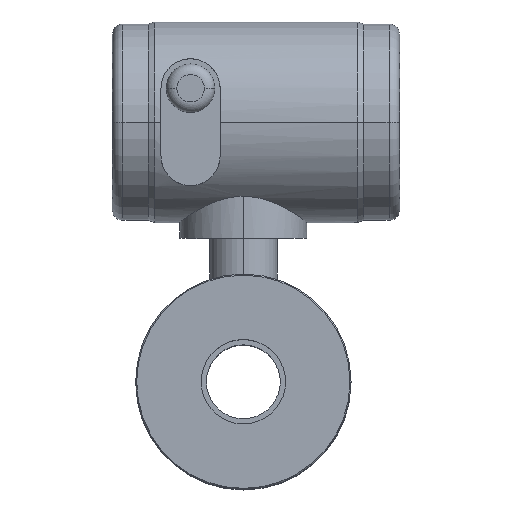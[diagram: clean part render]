
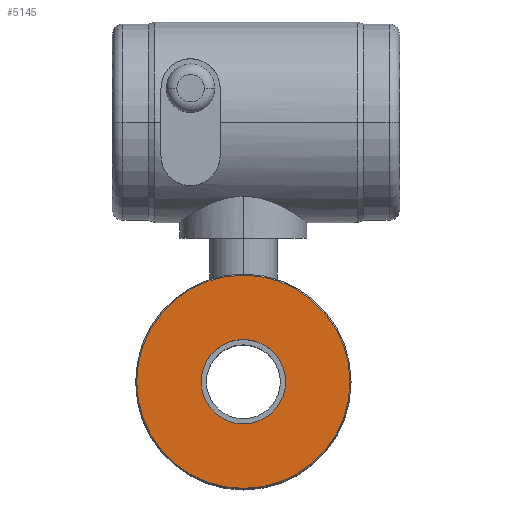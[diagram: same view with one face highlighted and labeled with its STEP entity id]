
A CAD part, top view. The second image highlights one B-rep face of the part: STEP entity #5145.
In plain terms, the highlighted planar face has unit normal (0, 0, 1).
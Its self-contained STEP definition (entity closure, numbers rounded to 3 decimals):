
#36 = PLANE ( 'NONE',  #2812 ) ;
#212 = EDGE_LOOP ( 'NONE', ( #3472, #1064 ) ) ;
#227 = CARTESIAN_POINT ( 'NONE',  ( 0., 50.5, -8.5 ) ) ;
#374 = EDGE_CURVE ( 'NONE', #4081, #2634, #403, .T. ) ;
#403 = CIRCLE ( 'NONE', #1513, 50.5 ) ;
#502 = DIRECTION ( 'NONE',  ( 0., 1., 0. ) ) ;
#754 = VERTEX_POINT ( 'NONE', #2592 ) ;
#879 = DIRECTION ( 'NONE',  ( 0., 0., -1. ) ) ;
#927 = CARTESIAN_POINT ( 'NONE',  ( 0., 0., -8.5 ) ) ;
#963 = DIRECTION ( 'NONE',  ( 0., 0., 1. ) ) ;
#1064 = ORIENTED_EDGE ( 'NONE', *, *, #3531, .T. ) ;
#1165 = DIRECTION ( 'NONE',  ( 0., -1., 0. ) ) ;
#1198 = CARTESIAN_POINT ( 'NONE',  ( 0., 0., -8.5 ) ) ;
#1332 = DIRECTION ( 'NONE',  ( 0., -1., 0. ) ) ;
#1481 = CARTESIAN_POINT ( 'NONE',  ( 0., -50.5, -8.5 ) ) ;
#1513 = AXIS2_PLACEMENT_3D ( 'NONE', #4663, #4658, #4651 ) ;
#1726 = EDGE_CURVE ( 'NONE', #2634, #4081, #4472, .T. ) ;
#1741 = FACE_OUTER_BOUND ( 'NONE', #2266, .T. ) ;
#2241 = AXIS2_PLACEMENT_3D ( 'NONE', #927, #963, #1165 ) ;
#2256 = EDGE_CURVE ( 'NONE', #754, #4707, #3258, .T. ) ;
#2266 = EDGE_LOOP ( 'NONE', ( #3975, #3793 ) ) ;
#2487 = FACE_BOUND ( 'NONE', #212, .T. ) ;
#2592 = CARTESIAN_POINT ( 'NONE',  ( 0., 20., -8.5 ) ) ;
#2634 = VERTEX_POINT ( 'NONE', #1481 ) ;
#2812 = AXIS2_PLACEMENT_3D ( 'NONE', #3272, #4421, #1332 ) ;
#2903 = AXIS2_PLACEMENT_3D ( 'NONE', #5085, #5068, #5052 ) ;
#3258 = CIRCLE ( 'NONE', #3423, 20. ) ;
#3272 = CARTESIAN_POINT ( 'NONE',  ( 0., 20., -8.5 ) ) ;
#3423 = AXIS2_PLACEMENT_3D ( 'NONE', #1198, #879, #502 ) ;
#3472 = ORIENTED_EDGE ( 'NONE', *, *, #2256, .T. ) ;
#3531 = EDGE_CURVE ( 'NONE', #4707, #754, #4298, .T. ) ;
#3793 = ORIENTED_EDGE ( 'NONE', *, *, #1726, .T. ) ;
#3975 = ORIENTED_EDGE ( 'NONE', *, *, #374, .T. ) ;
#4081 = VERTEX_POINT ( 'NONE', #227 ) ;
#4298 = CIRCLE ( 'NONE', #2903, 20. ) ;
#4421 = DIRECTION ( 'NONE',  ( 0., 0., 1. ) ) ;
#4472 = CIRCLE ( 'NONE', #2241, 50.5 ) ;
#4581 = CARTESIAN_POINT ( 'NONE',  ( 0., -20., -8.5 ) ) ;
#4651 = DIRECTION ( 'NONE',  ( 0., -1., 0. ) ) ;
#4658 = DIRECTION ( 'NONE',  ( 0., 0., 1. ) ) ;
#4663 = CARTESIAN_POINT ( 'NONE',  ( 0., 0., -8.5 ) ) ;
#4707 = VERTEX_POINT ( 'NONE', #4581 ) ;
#5052 = DIRECTION ( 'NONE',  ( 0., 1., 0. ) ) ;
#5068 = DIRECTION ( 'NONE',  ( 0., 0., -1. ) ) ;
#5085 = CARTESIAN_POINT ( 'NONE',  ( 0., 0., -8.5 ) ) ;
#5145 = ADVANCED_FACE ( 'NONE', ( #1741, #2487 ), #36, .T. ) ;
